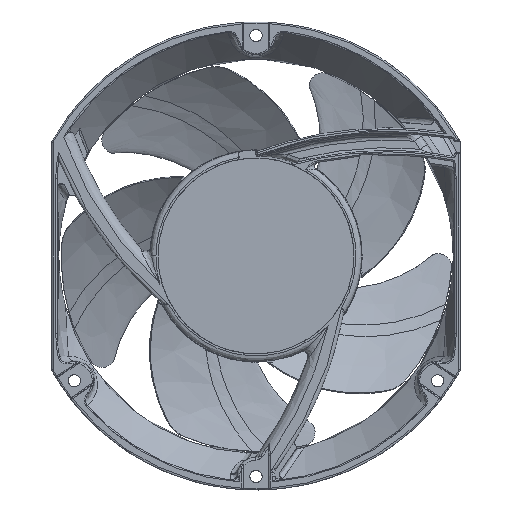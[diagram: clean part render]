
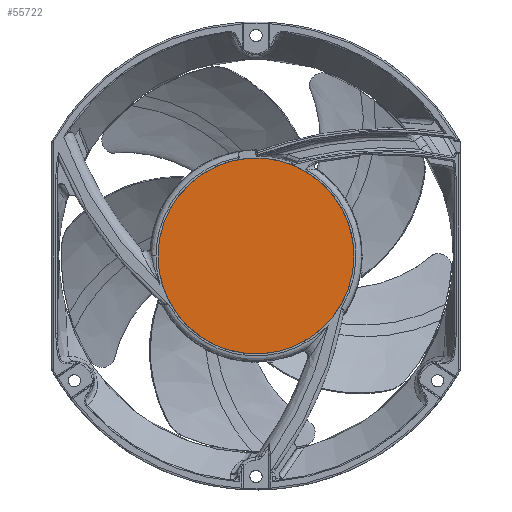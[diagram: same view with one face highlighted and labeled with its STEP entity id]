
A CAD part, front view. The second image highlights one B-rep face of the part: STEP entity #55722.
In plain terms, the highlighted planar face has unit normal (0, -1, 0).
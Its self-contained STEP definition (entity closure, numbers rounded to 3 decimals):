
#868 = CARTESIAN_POINT ( 'NONE',  ( 0., -51.06, 0. ) ) ;
#2313 = CARTESIAN_POINT ( 'NONE',  ( -9.334, -51.06, 34.849 ) ) ;
#2322 = CARTESIAN_POINT ( 'NONE',  ( 9.334, -51.06, -34.849 ) ) ;
#2508 = CARTESIAN_POINT ( 'NONE',  ( 31.242, -51.06, 18.041 ) ) ;
#2516 = CARTESIAN_POINT ( 'NONE',  ( -31.242, -51.06, -18.041 ) ) ;
#5609 = DIRECTION ( 'NONE',  ( 1., 0., 0. ) ) ;
#6850 = CARTESIAN_POINT ( 'NONE',  ( -34.849, -51.06, 9.334 ) ) ;
#6859 = CARTESIAN_POINT ( 'NONE',  ( 34.849, -51.06, -9.334 ) ) ;
#7061 = CARTESIAN_POINT ( 'NONE',  ( -2.356, -51.06, 36. ) ) ;
#7072 = CARTESIAN_POINT ( 'NONE',  ( 2.356, -51.06, -36. ) ) ;
#7275 = CARTESIAN_POINT ( 'NONE',  ( 34.161, -51.06, 11.6 ) ) ;
#7284 = CARTESIAN_POINT ( 'NONE',  ( -34.161, -51.06, -11.6 ) ) ;
#9962 = B_SPLINE_CURVE_WITH_KNOTS ( 'NONE', 3,
 ( #30545, #25731, #35339, #6850, #40121, #11618, #44862, #16404, #49608, #21184, #54392, #25950, #59201, #30740, #2313, #35551, #7061, #40302, #11834, #45059, #16609, #49816, #21403, #54598, #26149, #59421, #30949, #2508, #35751, #7275, #40518, #12021, #45271, #16806 ),
 .UNSPECIFIED., .F., .F.,
 ( 4, 2, 2, 2, 2, 2, 2, 2, 2, 2, 2, 2, 2, 2, 2, 2, 4 ),
 ( 0., 0.063, 0.125, 0.188, 0.25, 0.313, 0.375, 0.438, 0.5, 0.563, 0.625, 0.688, 0.75, 0.813, 0.875, 0.938, 1. ),
 .UNSPECIFIED. ) ;
#11618 = CARTESIAN_POINT ( 'NONE',  ( -32.358, -51.06, 15.953 ) ) ;
#11626 = CARTESIAN_POINT ( 'NONE',  ( 32.358, -51.06, -15.953 ) ) ;
#11834 = CARTESIAN_POINT ( 'NONE',  ( 4.712, -51.06, 35.768 ) ) ;
#11844 = CARTESIAN_POINT ( 'NONE',  ( -4.712, -51.06, -35.768 ) ) ;
#12021 = CARTESIAN_POINT ( 'NONE',  ( 35.768, -51.06, 4.712 ) ) ;
#12029 = CARTESIAN_POINT ( 'NONE',  ( -35.768, -51.06, -4.712 ) ) ;
#15463 = VERTEX_POINT ( 'NONE', #16185 ) ;
#16185 = CARTESIAN_POINT ( 'NONE',  ( -36., -51.06, 0. ) ) ;
#16404 = CARTESIAN_POINT ( 'NONE',  ( -28.624, -51.06, 21.96 ) ) ;
#16411 = CARTESIAN_POINT ( 'NONE',  ( 28.624, -51.06, -21.96 ) ) ;
#16609 = CARTESIAN_POINT ( 'NONE',  ( 11.6, -51.06, 34.161 ) ) ;
#16619 = CARTESIAN_POINT ( 'NONE',  ( -11.6, -51.06, -34.161 ) ) ;
#16806 = CARTESIAN_POINT ( 'NONE',  ( 36., -51.06, 0. ) ) ;
#16815 = CARTESIAN_POINT ( 'NONE',  ( -36., -51.06, 0. ) ) ;
#17411 = ORIENTED_EDGE ( 'NONE', *, *, #55234, .F. ) ;
#21184 = CARTESIAN_POINT ( 'NONE',  ( -23.79, -51.06, 27.122 ) ) ;
#21193 = CARTESIAN_POINT ( 'NONE',  ( 23.79, -51.06, -27.122 ) ) ;
#21403 = CARTESIAN_POINT ( 'NONE',  ( 18.041, -51.06, 31.242 ) ) ;
#21414 = CARTESIAN_POINT ( 'NONE',  ( -18.041, -51.06, -31.242 ) ) ;
#25731 = CARTESIAN_POINT ( 'NONE',  ( -36., -51.06, 2.356 ) ) ;
#25950 = CARTESIAN_POINT ( 'NONE',  ( -18.041, -51.06, 31.242 ) ) ;
#25958 = CARTESIAN_POINT ( 'NONE',  ( 18.041, -51.06, -31.242 ) ) ;
#26149 = CARTESIAN_POINT ( 'NONE',  ( 23.79, -51.06, 27.122 ) ) ;
#26159 = CARTESIAN_POINT ( 'NONE',  ( -23.79, -51.06, -27.122 ) ) ;
#29272 = PLANE ( 'NONE',  #57211 ) ;
#30130 = CARTESIAN_POINT ( 'NONE',  ( 36., -51.06, -2.356 ) ) ;
#30545 = CARTESIAN_POINT ( 'NONE',  ( -36., -51.06, 0. ) ) ;
#30740 = CARTESIAN_POINT ( 'NONE',  ( -11.6, -51.06, 34.161 ) ) ;
#30748 = CARTESIAN_POINT ( 'NONE',  ( 11.6, -51.06, -34.161 ) ) ;
#30949 = CARTESIAN_POINT ( 'NONE',  ( 28.624, -51.06, 21.96 ) ) ;
#30959 = CARTESIAN_POINT ( 'NONE',  ( -28.624, -51.06, -21.96 ) ) ;
#33213 = EDGE_CURVE ( 'NONE', #35893, #15463, #34393, .T. ) ;
#34096 = DIRECTION ( 'NONE',  ( 0., -1., 0. ) ) ;
#34393 = B_SPLINE_CURVE_WITH_KNOTS ( 'NONE', 3,
 ( #58999, #30130, #35350, #6859, #40131, #11626, #44871, #16411, #49618, #21193, #54403, #25958, #59211, #30748, #2322, #35559, #7072, #40312, #11844, #45066, #16619, #49824, #21414, #54607, #26159, #59429, #30959, #2516, #35761, #7284, #40530, #12029, #45282, #16815 ),
 .UNSPECIFIED., .F., .F.,
 ( 4, 2, 2, 2, 2, 2, 2, 2, 2, 2, 2, 2, 2, 2, 2, 2, 4 ),
 ( 0., 0.063, 0.125, 0.188, 0.25, 0.313, 0.375, 0.438, 0.5, 0.563, 0.625, 0.688, 0.75, 0.813, 0.875, 0.938, 1. ),
 .UNSPECIFIED. ) ;
#35339 = CARTESIAN_POINT ( 'NONE',  ( -35.768, -51.06, 4.712 ) ) ;
#35350 = CARTESIAN_POINT ( 'NONE',  ( 35.768, -51.06, -4.712 ) ) ;
#35551 = CARTESIAN_POINT ( 'NONE',  ( -4.712, -51.06, 35.768 ) ) ;
#35559 = CARTESIAN_POINT ( 'NONE',  ( 4.712, -51.06, -35.768 ) ) ;
#35751 = CARTESIAN_POINT ( 'NONE',  ( 32.358, -51.06, 15.953 ) ) ;
#35761 = CARTESIAN_POINT ( 'NONE',  ( -32.358, -51.06, -15.953 ) ) ;
#35893 = VERTEX_POINT ( 'NONE', #49032 ) ;
#40121 = CARTESIAN_POINT ( 'NONE',  ( -34.161, -51.06, 11.6 ) ) ;
#40131 = CARTESIAN_POINT ( 'NONE',  ( 34.161, -51.06, -11.6 ) ) ;
#40302 = CARTESIAN_POINT ( 'NONE',  ( 2.356, -51.06, 36. ) ) ;
#40312 = CARTESIAN_POINT ( 'NONE',  ( -2.356, -51.06, -36. ) ) ;
#40518 = CARTESIAN_POINT ( 'NONE',  ( 34.849, -51.06, 9.334 ) ) ;
#40530 = CARTESIAN_POINT ( 'NONE',  ( -34.849, -51.06, -9.334 ) ) ;
#42273 = FACE_OUTER_BOUND ( 'NONE', #43892, .T. ) ;
#43892 = EDGE_LOOP ( 'NONE', ( #17411, #58935 ) ) ;
#44862 = CARTESIAN_POINT ( 'NONE',  ( -31.242, -51.06, 18.041 ) ) ;
#44871 = CARTESIAN_POINT ( 'NONE',  ( 31.242, -51.06, -18.041 ) ) ;
#45059 = CARTESIAN_POINT ( 'NONE',  ( 9.334, -51.06, 34.849 ) ) ;
#45066 = CARTESIAN_POINT ( 'NONE',  ( -9.334, -51.06, -34.849 ) ) ;
#45271 = CARTESIAN_POINT ( 'NONE',  ( 36., -51.06, 2.356 ) ) ;
#45282 = CARTESIAN_POINT ( 'NONE',  ( -36., -51.06, -2.356 ) ) ;
#49032 = CARTESIAN_POINT ( 'NONE',  ( 36., -51.06, 0. ) ) ;
#49608 = CARTESIAN_POINT ( 'NONE',  ( -27.122, -51.06, 23.79 ) ) ;
#49618 = CARTESIAN_POINT ( 'NONE',  ( 27.122, -51.06, -23.79 ) ) ;
#49816 = CARTESIAN_POINT ( 'NONE',  ( 15.953, -51.06, 32.358 ) ) ;
#49824 = CARTESIAN_POINT ( 'NONE',  ( -15.953, -51.06, -32.358 ) ) ;
#54392 = CARTESIAN_POINT ( 'NONE',  ( -21.96, -51.06, 28.624 ) ) ;
#54403 = CARTESIAN_POINT ( 'NONE',  ( 21.96, -51.06, -28.624 ) ) ;
#54598 = CARTESIAN_POINT ( 'NONE',  ( 21.96, -51.06, 28.624 ) ) ;
#54607 = CARTESIAN_POINT ( 'NONE',  ( -21.96, -51.06, -28.624 ) ) ;
#55234 = EDGE_CURVE ( 'NONE', #15463, #35893, #9962, .T. ) ;
#55722 = ADVANCED_FACE ( 'NONE', ( #42273 ), #29272, .T. ) ;
#57211 = AXIS2_PLACEMENT_3D ( 'NONE', #868, #34096, #5609 ) ;
#58935 = ORIENTED_EDGE ( 'NONE', *, *, #33213, .F. ) ;
#58999 = CARTESIAN_POINT ( 'NONE',  ( 36., -51.06, 0. ) ) ;
#59201 = CARTESIAN_POINT ( 'NONE',  ( -15.953, -51.06, 32.358 ) ) ;
#59211 = CARTESIAN_POINT ( 'NONE',  ( 15.953, -51.06, -32.358 ) ) ;
#59421 = CARTESIAN_POINT ( 'NONE',  ( 27.122, -51.06, 23.79 ) ) ;
#59429 = CARTESIAN_POINT ( 'NONE',  ( -27.122, -51.06, -23.79 ) ) ;
